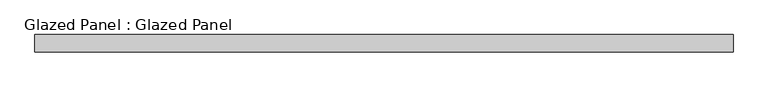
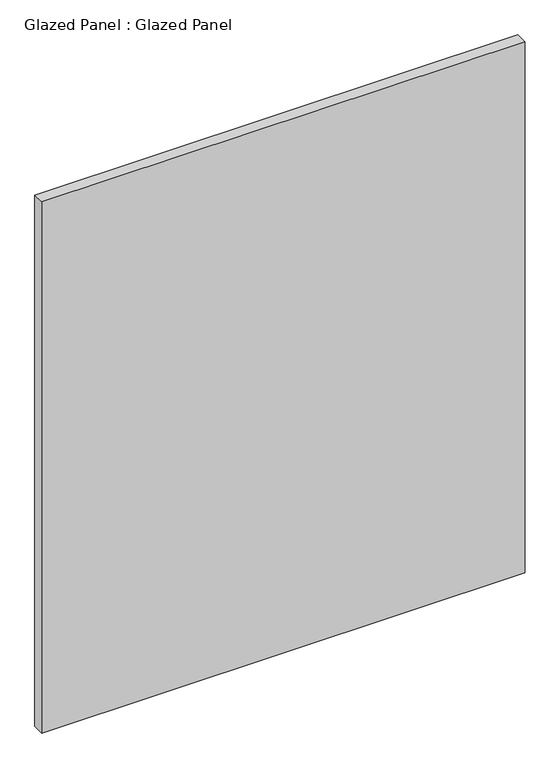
"""IFC4 building model written with IfcOpenShell, lengths in millimetres: plate geometry, Glazed Panel : Glazed Panel."""

from ifc_helpers import new_model, si_unit, origin, origin_with_axes, place, context, project, spatial, polyline, outline, extrude, source, transform, mapped, element, save


def glazed_panel_glazed_panel_dfa14ea5(model_context):
    return source(origin(), model_context, "Body", "SweptSolid", [
        extrude(outline(polyline([(511.175, 38.1), (-511.175, 38.1), (-511.175, 63.5), (511.175, 63.5), (511.175, 38.1)])), origin_with_axes(), (0.0, 0.0, 1.0), 1187.45),
    ])


if __name__ == "__main__":
    model = new_model("IFC4")
    model_context = context("Model", 3, world=origin())
    ifc_project = project(units=[si_unit("LENGTHUNIT", "METRE", prefix="MILLI")], contexts=[model_context])
    site = spatial("IfcSite", under=ifc_project)
    building = spatial("IfcBuilding", under=site)
    placement = place(None, origin())
    glazed_panel_glazed_panel_shape = glazed_panel_glazed_panel_dfa14ea5(model_context)
    element("IfcPlate", 1, ObjectType="Glazed Panel : Glazed Panel", at=placement, inside=building, context=model_context, shape_type="MappedRepresentation", body=[
        mapped(glazed_panel_glazed_panel_shape, transform((0.0, 0.0, 0.0), x_axis=(1.0, 0.0, 0.0), y_axis=(0.0, 1.0, 0.0), z_axis=(0.0, 0.0, 1.0))),
    ])
    save(model, "model.ifc")
